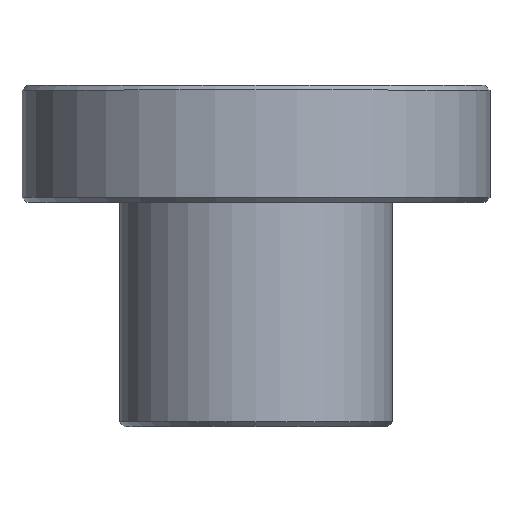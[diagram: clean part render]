
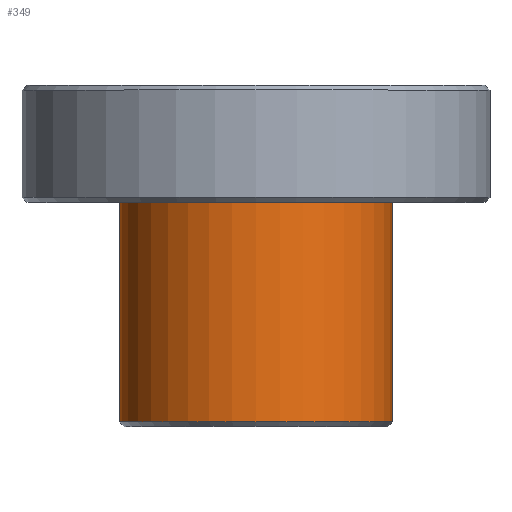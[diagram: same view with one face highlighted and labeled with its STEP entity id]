
A CAD part, top view. The second image highlights one B-rep face of the part: STEP entity #349.
In plain terms, the highlighted cylindrical face has radius 14 mm (diameter 28 mm), a full revolution.
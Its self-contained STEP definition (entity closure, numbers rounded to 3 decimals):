
#92 = PLANE('',#93);
#93 = AXIS2_PLACEMENT_3D('',#94,#95,#96);
#94 = CARTESIAN_POINT('',(0.,23.,0.));
#95 = DIRECTION('',(0.,-1.,0.));
#96 = DIRECTION('',(0.,0.,-1.));
#321 = EDGE_CURVE('',#322,#322,#324,.T.);
#322 = VERTEX_POINT('',#323);
#323 = CARTESIAN_POINT('',(0.,23.,-14.));
#324 = SURFACE_CURVE('',#325,(#330,#337),.PCURVE_S1.);
#325 = CIRCLE('',#326,14.);
#326 = AXIS2_PLACEMENT_3D('',#327,#328,#329);
#327 = CARTESIAN_POINT('',(0.,23.,0.));
#328 = DIRECTION('',(0.,-1.,0.));
#329 = DIRECTION('',(0.,0.,-1.));
#330 = PCURVE('',#92,#331);
#331 = DEFINITIONAL_REPRESENTATION('',(#332),#336);
#332 = CIRCLE('',#333,14.);
#333 = AXIS2_PLACEMENT_2D('',#334,#335);
#334 = CARTESIAN_POINT('',(0.,0.));
#335 = DIRECTION('',(1.,0.));
#336 = ( GEOMETRIC_REPRESENTATION_CONTEXT(2) 
PARAMETRIC_REPRESENTATION_CONTEXT() REPRESENTATION_CONTEXT('2D SPACE',''
  ) );
#337 = PCURVE('',#338,#343);
#338 = CYLINDRICAL_SURFACE('',#339,14.);
#339 = AXIS2_PLACEMENT_3D('',#340,#341,#342);
#340 = CARTESIAN_POINT('',(0.,282.03,0.));
#341 = DIRECTION('',(-0.,1.,-0.));
#342 = DIRECTION('',(0.,0.,-1.));
#343 = DEFINITIONAL_REPRESENTATION('',(#344),#348);
#344 = LINE('',#345,#346);
#345 = CARTESIAN_POINT('',(6.283,-259.03));
#346 = VECTOR('',#347,1.);
#347 = DIRECTION('',(-1.,0.));
#348 = ( GEOMETRIC_REPRESENTATION_CONTEXT(2) 
PARAMETRIC_REPRESENTATION_CONTEXT() REPRESENTATION_CONTEXT('2D SPACE',''
  ) );
#349 = ADVANCED_FACE('',(#350),#338,.T.);
#350 = FACE_BOUND('',#351,.T.);
#351 = EDGE_LOOP('',(#352,#383,#403,#404,#405));
#352 = ORIENTED_EDGE('',*,*,#353,.T.);
#353 = EDGE_CURVE('',#354,#356,#358,.T.);
#354 = VERTEX_POINT('',#355);
#355 = CARTESIAN_POINT('',(0.,0.5,14.));
#356 = VERTEX_POINT('',#357);
#357 = CARTESIAN_POINT('',(0.,0.5,-14.));
#358 = SURFACE_CURVE('',#359,(#364,#371),.PCURVE_S1.);
#359 = CIRCLE('',#360,14.);
#360 = AXIS2_PLACEMENT_3D('',#361,#362,#363);
#361 = CARTESIAN_POINT('',(0.,0.5,0.));
#362 = DIRECTION('',(0.,1.,0.));
#363 = DIRECTION('',(0.,-0.,1.));
#364 = PCURVE('',#338,#365);
#365 = DEFINITIONAL_REPRESENTATION('',(#366),#370);
#366 = LINE('',#367,#368);
#367 = CARTESIAN_POINT('',(3.142,-281.53));
#368 = VECTOR('',#369,1.);
#369 = DIRECTION('',(1.,0.));
#370 = ( GEOMETRIC_REPRESENTATION_CONTEXT(2) 
PARAMETRIC_REPRESENTATION_CONTEXT() REPRESENTATION_CONTEXT('2D SPACE',''
  ) );
#371 = PCURVE('',#372,#377);
#372 = CONICAL_SURFACE('',#373,14.,0.785);
#373 = AXIS2_PLACEMENT_3D('',#374,#375,#376);
#374 = CARTESIAN_POINT('',(0.,0.5,0.));
#375 = DIRECTION('',(-0.,1.,-0.));
#376 = DIRECTION('',(0.,0.,1.));
#377 = DEFINITIONAL_REPRESENTATION('',(#378),#382);
#378 = LINE('',#379,#380);
#379 = CARTESIAN_POINT('',(6.283,0.));
#380 = VECTOR('',#381,1.);
#381 = DIRECTION('',(1.,0.));
#382 = ( GEOMETRIC_REPRESENTATION_CONTEXT(2) 
PARAMETRIC_REPRESENTATION_CONTEXT() REPRESENTATION_CONTEXT('2D SPACE',''
  ) );
#383 = ORIENTED_EDGE('',*,*,#384,.T.);
#384 = EDGE_CURVE('',#356,#322,#385,.T.);
#385 = SEAM_CURVE('',#386,(#389,#396),.PCURVE_S1.);
#386 = B_SPLINE_CURVE_WITH_KNOTS('',1,(#387,#388),.UNSPECIFIED.,.F.,.F.,
  (2,2),(-281.53,-259.03),.PIECEWISE_BEZIER_KNOTS.);
#387 = CARTESIAN_POINT('',(0.,0.5,-14.));
#388 = CARTESIAN_POINT('',(0.,23.,-14.));
#389 = PCURVE('',#338,#390);
#390 = DEFINITIONAL_REPRESENTATION('',(#391),#395);
#391 = LINE('',#392,#393);
#392 = CARTESIAN_POINT('',(6.283,0.));
#393 = VECTOR('',#394,1.);
#394 = DIRECTION('',(0.,1.));
#395 = ( GEOMETRIC_REPRESENTATION_CONTEXT(2) 
PARAMETRIC_REPRESENTATION_CONTEXT() REPRESENTATION_CONTEXT('2D SPACE',''
  ) );
#396 = PCURVE('',#338,#397);
#397 = DEFINITIONAL_REPRESENTATION('',(#398),#402);
#398 = LINE('',#399,#400);
#399 = CARTESIAN_POINT('',(0.,0.));
#400 = VECTOR('',#401,1.);
#401 = DIRECTION('',(0.,1.));
#402 = ( GEOMETRIC_REPRESENTATION_CONTEXT(2) 
PARAMETRIC_REPRESENTATION_CONTEXT() REPRESENTATION_CONTEXT('2D SPACE',''
  ) );
#403 = ORIENTED_EDGE('',*,*,#321,.T.);
#404 = ORIENTED_EDGE('',*,*,#384,.F.);
#405 = ORIENTED_EDGE('',*,*,#406,.T.);
#406 = EDGE_CURVE('',#356,#354,#407,.T.);
#407 = SURFACE_CURVE('',#408,(#413,#420),.PCURVE_S1.);
#408 = CIRCLE('',#409,14.);
#409 = AXIS2_PLACEMENT_3D('',#410,#411,#412);
#410 = CARTESIAN_POINT('',(0.,0.5,0.));
#411 = DIRECTION('',(0.,1.,0.));
#412 = DIRECTION('',(0.,-0.,1.));
#413 = PCURVE('',#338,#414);
#414 = DEFINITIONAL_REPRESENTATION('',(#415),#419);
#415 = LINE('',#416,#417);
#416 = CARTESIAN_POINT('',(-3.142,-281.53));
#417 = VECTOR('',#418,1.);
#418 = DIRECTION('',(1.,0.));
#419 = ( GEOMETRIC_REPRESENTATION_CONTEXT(2) 
PARAMETRIC_REPRESENTATION_CONTEXT() REPRESENTATION_CONTEXT('2D SPACE',''
  ) );
#420 = PCURVE('',#372,#421);
#421 = DEFINITIONAL_REPRESENTATION('',(#422),#426);
#422 = LINE('',#423,#424);
#423 = CARTESIAN_POINT('',(0.,0.));
#424 = VECTOR('',#425,1.);
#425 = DIRECTION('',(1.,0.));
#426 = ( GEOMETRIC_REPRESENTATION_CONTEXT(2) 
PARAMETRIC_REPRESENTATION_CONTEXT() REPRESENTATION_CONTEXT('2D SPACE',''
  ) );
